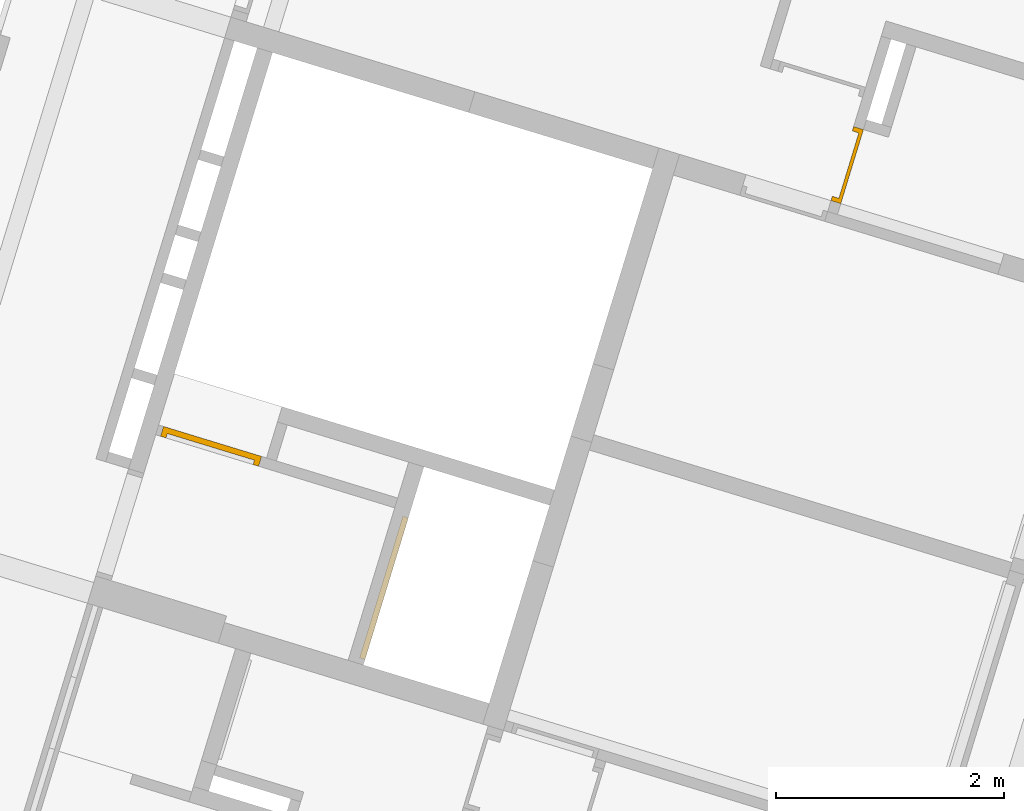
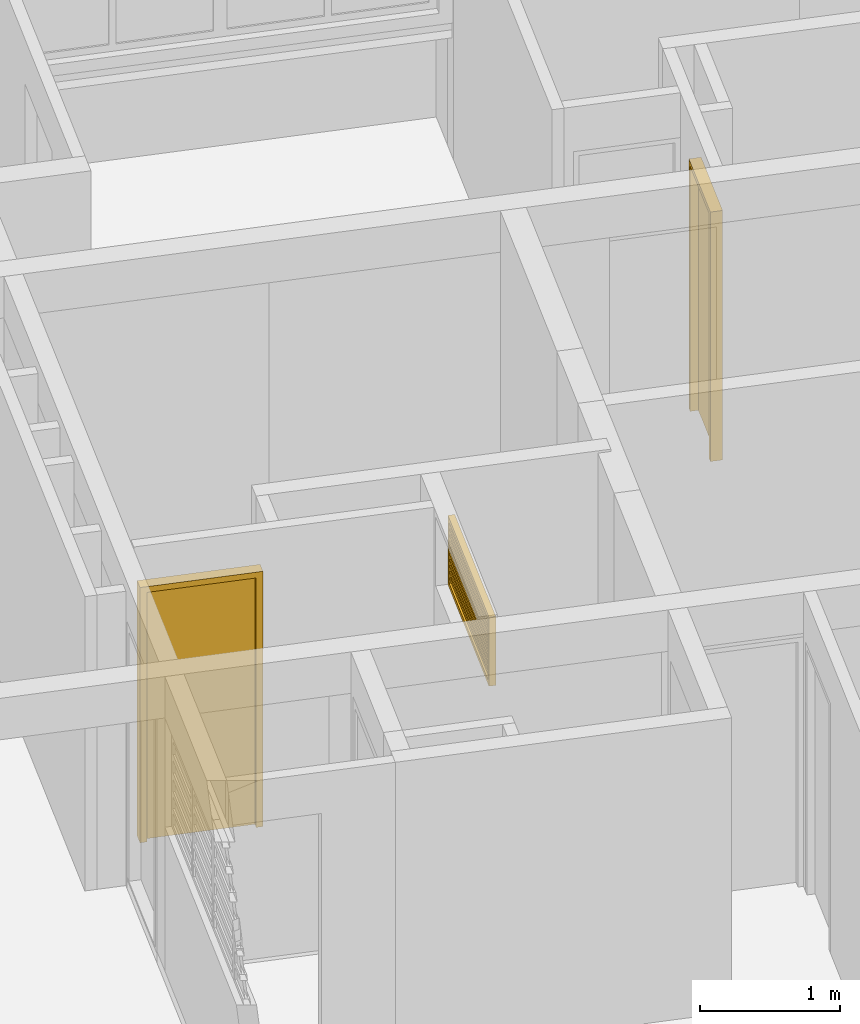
# One storey, part 18 of 18: 2 doors, 1 window.
"""IFC2X3 building model written with IfcOpenShell, lengths in millimetres."""

from ifc_helpers import new_model, entity, si_unit, converted_unit, derived_unit, money_unit, direction, frame, origin_with_axes, place, context, subcontext, project, spatial, faceted_brep, type_object, element, save


model = new_model("IFC2X3")

# Units and contexts
model_context = context("Model", 3, precision=0.01, world=origin_with_axes(), true_north=direction((0.0, 1.0)))
body_context = subcontext(model_context, "Body", "Model", "MODEL_VIEW")
ifc_project = project(units=[si_unit("LENGTHUNIT", "METRE", prefix="MILLI"), si_unit("AREAUNIT", "SQUARE_METRE"), si_unit("VOLUMEUNIT", "CUBIC_METRE"), converted_unit("PLANEANGLEUNIT", "DEGREE", entity("IfcPlaneAngleMeasure", 0.0174532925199), si_unit("PLANEANGLEUNIT", "RADIAN"), dimensions=[0, 0, 0, 0, 0, 0, 0]), money_unit("USD"), converted_unit("TIMEUNIT", "Year", entity("IfcTimeMeasure", 31556926.0), si_unit("TIMEUNIT", "SECOND"), dimensions=[0, 0, 1, 0, 0, 0, 0]), si_unit("MASSUNIT", "GRAM", prefix="KILO"), si_unit("THERMODYNAMICTEMPERATUREUNIT", "DEGREE_CELSIUS"), si_unit("LUMINOUSINTENSITYUNIT", "LUMEN"), si_unit("ENERGYUNIT", "JOULE", prefix="MEGA"), derived_unit("THERMALCONDUCTANCEUNIT", [(si_unit("POWERUNIT", "WATT"), 1), (si_unit("LENGTHUNIT", "METRE"), -1), (si_unit("THERMODYNAMICTEMPERATUREUNIT", "KELVIN"), -1)]), derived_unit("SPECIFICHEATCAPACITYUNIT", [(si_unit("ENERGYUNIT", "JOULE"), 1), (si_unit("MASSUNIT", "GRAM", prefix="KILO"), -1), (si_unit("THERMODYNAMICTEMPERATUREUNIT", "KELVIN"), -1)]), derived_unit("MASSDENSITYUNIT", [(si_unit("MASSUNIT", "GRAM", prefix="KILO"), 1), (si_unit("VOLUMEUNIT", "CUBIC_METRE"), -1)])], contexts=[model_context])

# Site, building, storey
site_placement = place(None, frame((0.0, 0.0, 0.0), z_axis=(0.0, 0.0, 1.0), x_axis=(0.956304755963, -0.292371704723, 0.0)))
site = spatial("IfcSite", under=ifc_project, at=site_placement, Name="Site", CompositionType="ELEMENT")
building_placement = place(site_placement, origin_with_axes())
building = spatial("IfcBuilding", under=site, at=building_placement, Name="Building", CompositionType="ELEMENT")
storey_placement = place(building_placement, origin_with_axes())
storey = spatial("IfcBuildingStorey", under=building, at=storey_placement, Name="Pavimento tipo", CompositionType="ELEMENT", Elevation=0.0)

# Door
door_style_1 = type_object("IfcDoorStyle", Name="Door 26", ConstructionType="NOTDEFINED", OperationType="SINGLE_SWING_RIGHT", ParameterTakesPrecedence=False, Sizeable=False)
door_1_placement = place(storey_placement, frame((6851.71235779, 25519.9900343, 0.0), z_axis=(0.0, 0.0, 1.0), x_axis=(6.66120920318e-08, -1.0, 0.0)))
element("IfcDoor", 1, at=door_1_placement, inside=storey, type_object=door_style_1, Name="Apt 04 - Porta 04", OverallHeight=2170.0, OverallWidth=680.0, context=body_context, shape_type="Brep", body=[
    faceted_brep([(40.0000039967, 59.9999327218, 0.0), (40.0000039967, 59.9999327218, 2130.0), (40.0, -6.72782132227e-05, 2130.0), (40.0, -6.72782132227e-05, 0.0), (30.0000039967, 59.9999333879, 2130.0), (30.0000039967, 59.9999333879, 0.0), (30.0000059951, 89.9999333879, 2130.0), (5.99508709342e-06, 89.9999353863, 2130.0), (0.0, -6.4613729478e-05, 2130.0), (0.0, -6.4613729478e-05, 0.0), (5.99508709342e-06, 89.9999353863, 0.0), (30.0000059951, 89.9999333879, 0.0)], [[[0, 1, 2, 3]], [[4, 1, 0, 5]], [[4, 6, 7, 8, 2, 1]], [[3, 2, 8, 9]], [[5, 0, 3, 9, 10, 11]], [[6, 4, 5, 11]], [[6, 11, 10, 7]], [[10, 9, 8, 7]]]),
    faceted_brep([(650.000003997, 59.9998920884, 2130.0), (640.000003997, 59.9998927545, 2130.0), (640.0, -0.000107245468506, 2130.0), (680.0, -0.000109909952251, 2130.0), (680.000005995, 89.99989009, 2130.0), (650.000005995, 89.9998920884, 2130.0), (650.000003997, 59.9998920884, 0.0), (640.000003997, 59.9998927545, 0.0), (640.0, -0.000107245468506, 0.0), (680.0, -0.000109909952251, 0.0), (680.000005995, 89.99989009, 0.0), (650.000005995, 89.9998920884, 0.0)], [[[0, 1, 2, 3, 4, 5]], [[1, 0, 6, 7]], [[1, 7, 8, 2]], [[3, 2, 8, 9]], [[4, 3, 9, 10]], [[11, 5, 4, 10]], [[0, 5, 11, 6]], [[6, 11, 10, 9, 8, 7]]]),
    faceted_brep([(30.0000059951, 89.9999333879, 2140.0), (30.0000059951, 89.9999333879, 2130.0), (5.99508709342e-06, 89.9999353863, 2130.0), (5.99508709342e-06, 89.9999353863, 2170.0), (680.000005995, 89.99989009, 2170.0), (680.000005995, 89.99989009, 2130.0), (650.000005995, 89.9998920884, 2130.0), (650.000005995, 89.9998920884, 2140.0), (30.0000039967, 59.9999333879, 2140.0), (30.0000039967, 59.9999333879, 2130.0), (40.0000039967, 59.9999327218, 2130.0), (40.0, -6.72782132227e-05, 2130.0), (0.0, -6.4613729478e-05, 2130.0), (0.0, -6.4613729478e-05, 2170.0), (680.0, -0.000109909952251, 2170.0), (680.0, -0.000109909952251, 2130.0), (650.000003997, 59.9998920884, 2130.0), (640.0, -0.000107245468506, 2130.0), (640.000003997, 59.9998927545, 2130.0), (650.000003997, 59.9998920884, 2140.0)], [[[0, 1, 2, 3, 4, 5, 6, 7]], [[1, 0, 8, 9]], [[9, 10, 11, 12, 2, 1]], [[2, 12, 13, 3]], [[3, 13, 14, 4]], [[4, 14, 15, 5]], [[16, 6, 5, 15, 17, 18]], [[7, 6, 16, 19]], [[0, 7, 19, 8]], [[16, 18, 10, 9, 8, 19]], [[10, 18, 17, 11]], [[17, 15, 14, 13, 12, 11]]]),
    faceted_brep([(650.000005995, 89.9998920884, 0.0), (650.000003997, 59.9998920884, 0.0), (30.0000039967, 59.9999333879, 0.0), (30.0000059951, 89.9999333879, 0.0), (650.000005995, 89.9998920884, 2140.0), (650.000003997, 59.9998920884, 2140.0), (30.0000039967, 59.9999333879, 2140.0), (30.0000059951, 89.9999333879, 2140.0)], [[[0, 1, 2, 3]], [[4, 5, 1, 0]], [[1, 5, 6, 2]], [[3, 2, 6, 7]], [[0, 3, 7, 4]], [[7, 6, 5, 4]]]),
])

# Window
window_style = type_object("IfcWindowStyle", Name="Janela 26", ConstructionType="NOTDEFINED", OperationType="SINGLE_PANEL", ParameterTakesPrecedence=False, Sizeable=False)
window_placement = place(storey_placement, frame((4116.71097365, 21089.9999933, 1930.0), z_axis=(0.0, 0.0, 1.0), x_axis=(0.0, -1.0, 0.0)))
element("IfcWindow", 2, at=window_placement, inside=storey, type_object=window_style, Name="J29", OverallHeight=600.0, OverallWidth=1300.0, context=body_context, shape_type="Brep", body=[
    faceted_brep([(35.0, -50.0, 565.0), (35.0, 0.0, 565.0), (0.0, 0.0, 565.0), (0.0, -50.0, 565.0), (35.0, -50.0, 35.0), (35.0, 0.0, 35.0), (0.0, 0.0, 35.0), (0.0, -50.0, 35.0)], [[[0, 1, 2, 3]], [[4, 5, 1, 0]], [[1, 5, 6, 2]], [[3, 2, 6, 7]], [[0, 3, 7, 4]], [[7, 6, 5, 4]]]),
    faceted_brep([(1265.0, -50.0, 35.0), (1265.0, 0.0, 35.0), (1300.0, 0.0, 35.0), (1300.0, -50.0, 35.0), (1265.0, -50.0, 565.0), (1265.0, 0.0, 565.0), (1300.0, 0.0, 565.0), (1300.0, -50.0, 565.0)], [[[0, 1, 2, 3]], [[4, 5, 1, 0]], [[1, 5, 6, 2]], [[3, 2, 6, 7]], [[0, 3, 7, 4]], [[7, 6, 5, 4]]]),
    faceted_brep([(35.0, -50.0, 35.0), (35.0, 0.0, 35.0), (0.0, 0.0, 35.0), (0.0, -50.0, 35.0), (1265.0, -50.0, 35.0), (1265.0, 0.0, 35.0), (1300.0, 0.0, 35.0), (1300.0, 0.0, 0.0), (0.0, 0.0, 0.0), (0.0, -50.0, 0.0), (1300.0, -50.0, 0.0), (1300.0, -50.0, 35.0)], [[[0, 1, 2, 3]], [[4, 5, 1, 0]], [[1, 5, 6, 7, 8, 2]], [[3, 2, 8, 9]], [[0, 3, 9, 10, 11, 4]], [[11, 6, 5, 4]], [[10, 7, 6, 11]], [[9, 8, 7, 10]]]),
    faceted_brep([(1265.0, -50.0, 565.0), (1265.0, 0.0, 565.0), (1300.0, 0.0, 565.0), (1300.0, -50.0, 565.0), (35.0, -50.0, 565.0), (35.0, 0.0, 565.0), (0.0, 0.0, 565.0), (0.0, 0.0, 600.0), (1300.0, 0.0, 600.0), (1300.0, -50.0, 600.0), (0.0, -50.0, 600.0), (0.0, -50.0, 565.0)], [[[0, 1, 2, 3]], [[4, 5, 1, 0]], [[1, 5, 6, 7, 8, 2]], [[3, 2, 8, 9]], [[0, 3, 9, 10, 11, 4]], [[11, 6, 5, 4]], [[10, 7, 6, 11]], [[9, 8, 7, 10]]]),
    faceted_brep([(35.0, -9.79720420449, 39.2261363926), (1265.0, -9.79720420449, 39.2261363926), (1265.0, -47.2738636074, 76.7027957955), (35.0, -47.2738636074, 76.7027957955), (35.0, -2.72613639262, 46.2972042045), (1265.0, -2.72613639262, 46.2972042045), (1265.0, -40.2027957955, 83.7738636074), (35.0, -40.2027957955, 83.7738636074)], [[[0, 1, 2, 3]], [[4, 5, 1, 0]], [[1, 5, 6, 2]], [[3, 2, 6, 7]], [[0, 3, 7, 4]], [[7, 6, 5, 4]]]),
    faceted_brep([(35.0, -9.79720420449, 92.2261363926), (1265.0, -9.79720420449, 92.2261363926), (1265.0, -47.2738636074, 129.702795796), (35.0, -47.2738636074, 129.702795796), (35.0, -2.72613639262, 99.2972042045), (1265.0, -2.72613639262, 99.2972042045), (1265.0, -40.2027957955, 136.773863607), (35.0, -40.2027957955, 136.773863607)], [[[0, 1, 2, 3]], [[4, 5, 1, 0]], [[1, 5, 6, 2]], [[3, 2, 6, 7]], [[0, 3, 7, 4]], [[7, 6, 5, 4]]]),
    faceted_brep([(35.0, -9.79720420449, 145.226136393), (1265.0, -9.79720420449, 145.226136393), (1265.0, -47.2738636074, 182.702795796), (35.0, -47.2738636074, 182.702795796), (35.0, -2.72613639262, 152.297204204), (1265.0, -2.72613639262, 152.297204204), (1265.0, -40.2027957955, 189.773863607), (35.0, -40.2027957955, 189.773863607)], [[[0, 1, 2, 3]], [[4, 5, 1, 0]], [[1, 5, 6, 2]], [[3, 2, 6, 7]], [[0, 3, 7, 4]], [[7, 6, 5, 4]]]),
    faceted_brep([(35.0, -9.79720420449, 198.226136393), (1265.0, -9.79720420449, 198.226136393), (1265.0, -47.2738636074, 235.702795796), (35.0, -47.2738636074, 235.702795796), (35.0, -2.72613639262, 205.297204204), (1265.0, -2.72613639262, 205.297204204), (1265.0, -40.2027957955, 242.773863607), (35.0, -40.2027957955, 242.773863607)], [[[0, 1, 2, 3]], [[4, 5, 1, 0]], [[1, 5, 6, 2]], [[3, 2, 6, 7]], [[0, 3, 7, 4]], [[7, 6, 5, 4]]]),
    faceted_brep([(35.0, -9.79720420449, 251.226136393), (1265.0, -9.79720420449, 251.226136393), (1265.0, -47.2738636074, 288.702795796), (35.0, -47.2738636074, 288.702795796), (35.0, -2.72613639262, 258.297204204), (1265.0, -2.72613639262, 258.297204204), (1265.0, -40.2027957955, 295.773863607), (35.0, -40.2027957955, 295.773863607)], [[[0, 1, 2, 3]], [[4, 5, 1, 0]], [[1, 5, 6, 2]], [[3, 2, 6, 7]], [[0, 3, 7, 4]], [[7, 6, 5, 4]]]),
    faceted_brep([(35.0, -9.79720420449, 304.226136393), (1265.0, -9.79720420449, 304.226136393), (1265.0, -47.2738636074, 341.702795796), (35.0, -47.2738636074, 341.702795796), (35.0, -2.72613639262, 311.297204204), (1265.0, -2.72613639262, 311.297204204), (1265.0, -40.2027957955, 348.773863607), (35.0, -40.2027957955, 348.773863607)], [[[0, 1, 2, 3]], [[4, 5, 1, 0]], [[1, 5, 6, 2]], [[3, 2, 6, 7]], [[0, 3, 7, 4]], [[7, 6, 5, 4]]]),
    faceted_brep([(35.0, -9.79720420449, 357.226136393), (1265.0, -9.79720420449, 357.226136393), (1265.0, -47.2738636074, 394.702795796), (35.0, -47.2738636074, 394.702795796), (35.0, -2.72613639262, 364.297204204), (1265.0, -2.72613639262, 364.297204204), (1265.0, -40.2027957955, 401.773863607), (35.0, -40.2027957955, 401.773863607)], [[[0, 1, 2, 3]], [[4, 5, 1, 0]], [[1, 5, 6, 2]], [[3, 2, 6, 7]], [[0, 3, 7, 4]], [[7, 6, 5, 4]]]),
    faceted_brep([(35.0, -9.79720420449, 410.226136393), (1265.0, -9.79720420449, 410.226136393), (1265.0, -47.2738636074, 447.702795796), (35.0, -47.2738636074, 447.702795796), (35.0, -2.72613639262, 417.297204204), (1265.0, -2.72613639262, 417.297204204), (1265.0, -40.2027957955, 454.773863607), (35.0, -40.2027957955, 454.773863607)], [[[0, 1, 2, 3]], [[4, 5, 1, 0]], [[1, 5, 6, 2]], [[3, 2, 6, 7]], [[0, 3, 7, 4]], [[7, 6, 5, 4]]]),
    faceted_brep([(35.0, -9.79720420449, 463.226136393), (1265.0, -9.79720420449, 463.226136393), (1265.0, -47.2738636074, 500.702795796), (35.0, -47.2738636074, 500.702795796), (35.0, -2.72613639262, 470.297204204), (1265.0, -2.72613639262, 470.297204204), (1265.0, -40.2027957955, 507.773863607), (35.0, -40.2027957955, 507.773863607)], [[[0, 1, 2, 3]], [[4, 5, 1, 0]], [[1, 5, 6, 2]], [[3, 2, 6, 7]], [[0, 3, 7, 4]], [[7, 6, 5, 4]]]),
    faceted_brep([(35.0, -9.79720420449, 516.226136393), (1265.0, -9.79720420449, 516.226136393), (1265.0, -47.2738636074, 553.702795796), (35.0, -47.2738636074, 553.702795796), (35.0, -2.72613639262, 523.297204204), (1265.0, -2.72613639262, 523.297204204), (1265.0, -40.2027957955, 560.773863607), (35.0, -40.2027957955, 560.773863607)], [[[0, 1, 2, 3]], [[4, 5, 1, 0]], [[1, 5, 6, 2]], [[3, 2, 6, 7]], [[0, 3, 7, 4]], [[7, 6, 5, 4]]]),
])

# Door
door_style_2 = type_object("IfcDoorStyle", Name="Door 26", ConstructionType="NOTDEFINED", OperationType="SINGLE_SWING_LEFT", ParameterTakesPrecedence=False, Sizeable=False)
door_2_placement = place(storey_placement, frame((1876.71094996, 21229.9996236, 0.0), z_axis=(0.0, 0.0, 1.0), x_axis=(1.0, 1.66167620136e-07, 0.0)))
element("IfcDoor", 3, at=door_2_placement, inside=storey, type_object=door_style_2, Name="Porta 13", OverallHeight=2220.0, OverallWidth=900.0, context=body_context, shape_type="Brep", body=[
    faceted_brep([(800.0, -50.0, 0.0), (800.0, -90.0, 0.0), (800.0, -90.0, 2170.0), (800.0, -50.0, 2170.0), (830.0, -50.0, 0.0), (830.0, 0.0, 0.0), (850.0, 0.0, 0.0), (850.0, -90.0, 0.0), (850.0, -90.0, 2170.0), (830.0, -50.0, 2170.0), (850.0, 0.0, 2170.0), (830.0, 0.0, 2170.0)], [[[0, 1, 2, 3]], [[4, 5, 6, 7, 1, 0]], [[1, 7, 8, 2]], [[9, 3, 2, 8, 10, 11]], [[9, 4, 0, 3]], [[11, 5, 4, 9]], [[11, 10, 6, 5]], [[6, 10, 8, 7]]]),
    faceted_brep([(-30.0, -50.0, 2170.0), (-30.0, 0.0, 2170.0), (-50.0, 0.0, 2170.0), (-50.0, -90.0, 2170.0), (0.0, -90.0, 2170.0), (0.0, -50.0, 2170.0), (-30.0, -50.0, 0.0), (-30.0, 0.0, 0.0), (-50.0, 0.0, 0.0), (-50.0, -90.0, 0.0), (0.0, -90.0, 0.0), (0.0, -50.0, 0.0)], [[[0, 1, 2, 3, 4, 5]], [[0, 6, 7, 1]], [[7, 8, 2, 1]], [[2, 8, 9, 3]], [[3, 9, 10, 4]], [[5, 4, 10, 11]], [[5, 11, 6, 0]], [[6, 11, 10, 9, 8, 7]]]),
    faceted_brep([(830.0, 0.0, 2200.0), (-30.0, 0.0, 2200.0), (-30.0, 0.0, 2170.0), (-50.0, 0.0, 2170.0), (-50.0, 0.0, 2220.0), (850.0, 0.0, 2220.0), (850.0, 0.0, 2170.0), (830.0, 0.0, 2170.0), (830.0, -50.0, 2200.0), (-30.0, -50.0, 2200.0), (-30.0, -50.0, 2170.0), (0.0, -50.0, 2170.0), (0.0, -90.0, 2170.0), (-50.0, -90.0, 2170.0), (-50.0, -90.0, 2220.0), (850.0, -90.0, 2220.0), (850.0, -90.0, 2170.0), (830.0, -50.0, 2170.0), (800.0, -90.0, 2170.0), (800.0, -50.0, 2170.0)], [[[0, 1, 2, 3, 4, 5, 6, 7]], [[0, 8, 9, 1]], [[1, 9, 10, 2]], [[10, 11, 12, 13, 3, 2]], [[4, 3, 13, 14]], [[5, 4, 14, 15]], [[6, 5, 15, 16]], [[17, 7, 6, 16, 18, 19]], [[7, 17, 8, 0]], [[10, 9, 8, 17, 19, 11]], [[19, 18, 12, 11]], [[12, 18, 16, 15, 14, 13]]]),
    faceted_brep([(-30.0, 0.0, 0.0), (830.0, 0.0, 0.0), (830.0, -50.0, 0.0), (-30.0, -50.0, 0.0), (-30.0, 0.0, 2200.0), (830.0, 0.0, 2200.0), (830.0, -50.0, 2200.0), (-30.0, -50.0, 2200.0)], [[[0, 1, 2, 3]], [[0, 4, 5, 1]], [[1, 5, 6, 2]], [[3, 2, 6, 7]], [[4, 0, 3, 7]], [[5, 4, 7, 6]]]),
])

save(model, "model.ifc")
